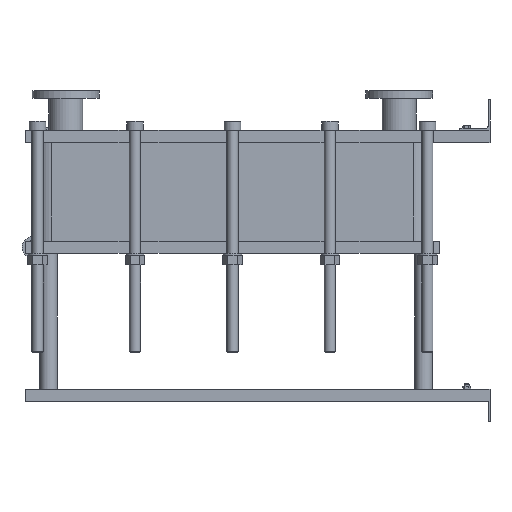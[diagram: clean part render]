
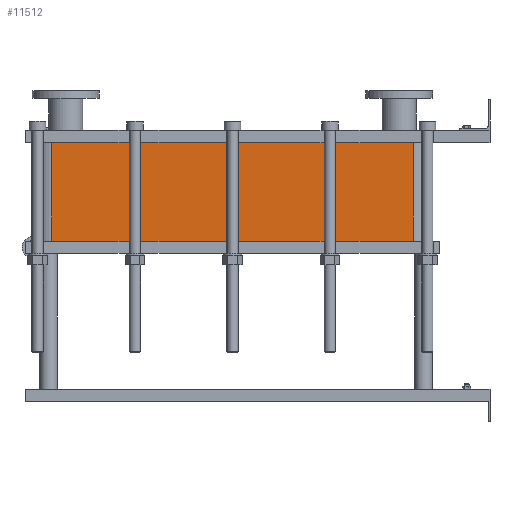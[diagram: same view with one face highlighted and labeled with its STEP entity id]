
A CAD part, left-side view. The second image highlights one B-rep face of the part: STEP entity #11512.
In plain terms, the highlighted planar face has unit normal (-1, 0, 0).
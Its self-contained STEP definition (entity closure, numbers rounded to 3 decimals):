
#1129=LINE('',#23232,#2102);
#1130=LINE('',#23236,#2103);
#1131=LINE('',#23238,#2104);
#1132=LINE('',#23239,#2105);
#2102=VECTOR('',#15887,10.);
#2103=VECTOR('',#15892,10.);
#2104=VECTOR('',#15893,10.);
#2105=VECTOR('',#15894,10.);
#3267=FACE_OUTER_BOUND('',#4093,.T.);
#4093=EDGE_LOOP('',(#10103,#10104,#10105,#10106));
#5642=VERTEX_POINT('',#23229);
#5643=VERTEX_POINT('',#23231);
#5644=VERTEX_POINT('',#23235);
#5645=VERTEX_POINT('',#23237);
#7159=EDGE_CURVE('',#5643,#5642,#1129,.T.);
#7161=EDGE_CURVE('',#5642,#5644,#1130,.T.);
#7162=EDGE_CURVE('',#5645,#5644,#1131,.T.);
#7163=EDGE_CURVE('',#5645,#5643,#1132,.T.);
#10103=ORIENTED_EDGE('',*,*,#7161,.T.);
#10104=ORIENTED_EDGE('',*,*,#7162,.F.);
#10105=ORIENTED_EDGE('',*,*,#7163,.T.);
#10106=ORIENTED_EDGE('',*,*,#7159,.T.);
#10857=PLANE('',#12751);
#11512=ADVANCED_FACE('',(#3267),#10857,.T.);
#12751=AXIS2_PLACEMENT_3D('',#23234,#15890,#15891);
#15887=DIRECTION('',(0.,0.,-1.));
#15890=DIRECTION('center_axis',(-1.,0.,0.));
#15891=DIRECTION('ref_axis',(0.,1.,0.));
#15892=DIRECTION('',(0.,-1.,0.));
#15893=DIRECTION('',(0.,0.,-1.));
#15894=DIRECTION('',(0.,1.,0.));
#23229=CARTESIAN_POINT('',(-200.,1414.,-317.4));
#23231=CARTESIAN_POINT('',(-200.,1414.,0.));
#23232=CARTESIAN_POINT('',(-200.,1414.,0.));
#23234=CARTESIAN_POINT('Origin',(-200.,248.,0.));
#23235=CARTESIAN_POINT('',(-200.,248.,-317.4));
#23236=CARTESIAN_POINT('',(-200.,539.5,-317.4));
#23237=CARTESIAN_POINT('',(-200.,248.,0.));
#23238=CARTESIAN_POINT('',(-200.,248.,0.));
#23239=CARTESIAN_POINT('',(-200.,248.,0.));
